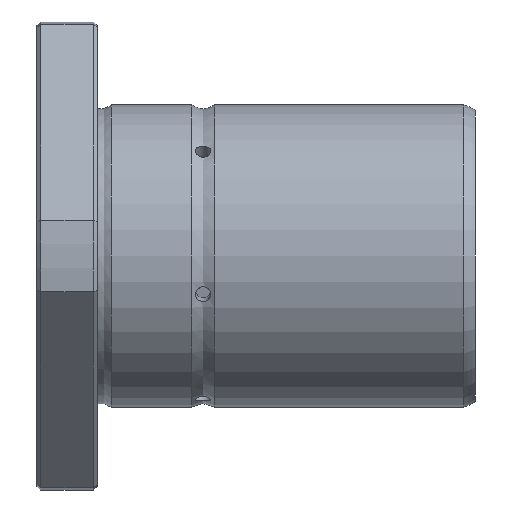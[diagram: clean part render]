
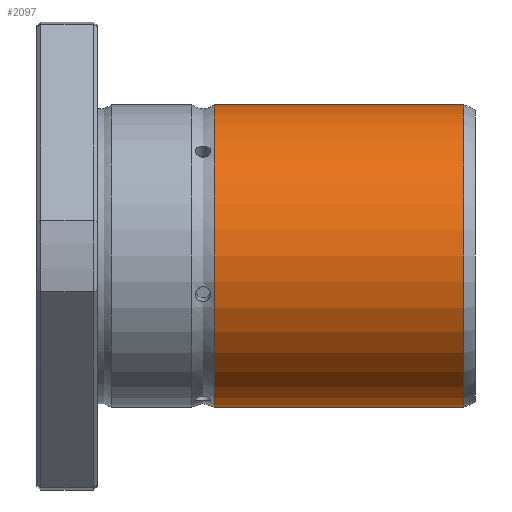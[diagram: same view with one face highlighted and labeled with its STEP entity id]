
A CAD part, front view. The second image highlights one B-rep face of the part: STEP entity #2097.
In plain terms, the highlighted cylindrical face has radius 20 mm (diameter 40 mm), a full revolution.
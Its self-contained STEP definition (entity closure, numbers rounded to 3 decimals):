
#2063=CARTESIAN_POINT('',(56.502,0.0,20.));
#2064=VERTEX_POINT('',#2063);
#2065=CARTESIAN_POINT('',(56.502,0.0,0.0));
#2066=DIRECTION('',(-1.0,0.0,0.0));
#2067=DIRECTION('',(0.0,0.0,1.0));
#2068=AXIS2_PLACEMENT_3D('',#2065,#2066,#2067);
#2069=CIRCLE('',#2068,20.);
#2070=EDGE_CURVE('',#2064,#2064,#2069,.T.);
#2078=CARTESIAN_POINT('',(40.001,0.0,0.0));
#2079=DIRECTION('',(-1.0,0.0,0.0));
#2080=DIRECTION('',(0.0,0.0,1.0));
#2081=AXIS2_PLACEMENT_3D('',#2078,#2079,#2080);
#2082=CYLINDRICAL_SURFACE('',#2081,20.);
#2083=CARTESIAN_POINT('',(23.5,0.0,20.0));
#2084=VERTEX_POINT('',#2083);
#2085=CARTESIAN_POINT('',(23.5,0.0,0.0));
#2086=DIRECTION('',(-1.0,0.0,0.0));
#2087=DIRECTION('',(0.0,0.0,1.0));
#2088=AXIS2_PLACEMENT_3D('',#2085,#2086,#2087);
#2089=CIRCLE('',#2088,20.0);
#2090=EDGE_CURVE('',#2084,#2084,#2089,.T.);
#2091=ORIENTED_EDGE('',*,*,#2090,.F.);
#2092=EDGE_LOOP('',(#2091));
#2093=FACE_OUTER_BOUND('',#2092,.T.);
#2094=ORIENTED_EDGE('',*,*,#2070,.T.);
#2095=EDGE_LOOP('',(#2094));
#2096=FACE_BOUND('',#2095,.T.);
#2097=ADVANCED_FACE('',(#2093,#2096),#2082,.T.);
